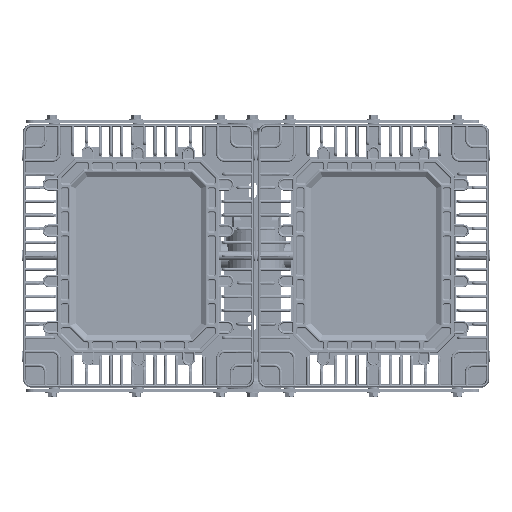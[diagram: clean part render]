
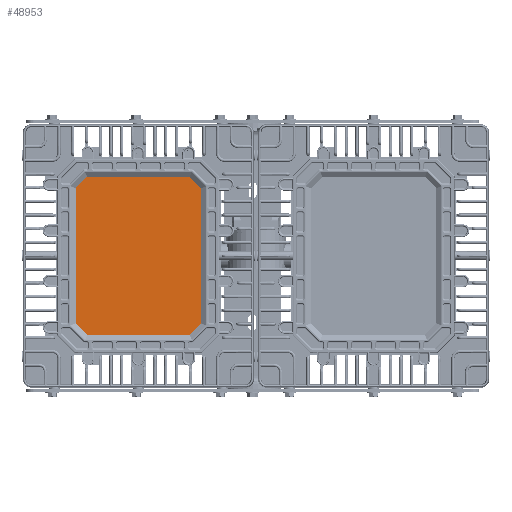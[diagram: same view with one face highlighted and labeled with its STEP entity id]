
A CAD part, top view. The second image highlights one B-rep face of the part: STEP entity #48953.
In plain terms, the highlighted planar face has unit normal (-0.001, 0, 1) as drawn and (0, 0, -1) by its records, which use the part's own axes.
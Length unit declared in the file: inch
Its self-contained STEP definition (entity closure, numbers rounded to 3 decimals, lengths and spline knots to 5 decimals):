
#320 = AXIS2_PLACEMENT_3D ( 'NONE', #23436, #88248, #32732 ) ;
#401 = EDGE_CURVE ( 'NONE', #81745, #22912, #7213, .T. ) ;
#884 = ORIENTED_EDGE ( 'NONE', *, *, #39844, .T. ) ;
#3611 = CARTESIAN_POINT ( 'NONE',  ( 4.705, -3.05299, -0.55 ) ) ;
#5630 = EDGE_LOOP ( 'NONE', ( #67241, #106431, #20739, #49895, #884, #81576, #9745, #30187 ) ) ;
#7213 = LINE ( 'NONE', #19609, #34766 ) ;
#9499 = DIRECTION ( 'NONE',  ( 0.707, 0.707, 0. ) ) ;
#9745 = ORIENTED_EDGE ( 'NONE', *, *, #50843, .T. ) ;
#10189 = CARTESIAN_POINT ( 'NONE',  ( 4.705, 3.05299, -0.55 ) ) ;
#11967 = CARTESIAN_POINT ( 'NONE',  ( 4.01924, 3.73875, -0.55 ) ) ;
#12436 = VECTOR ( 'NONE', #66322, 39.37008 ) ;
#13059 = LINE ( 'NONE', #49710, #111561 ) ;
#13746 = VECTOR ( 'NONE', #114989, 39.37008 ) ;
#13803 = CARTESIAN_POINT ( 'NONE',  ( -4.01924, -3.73875, -0.55 ) ) ;
#15268 = FACE_OUTER_BOUND ( 'NONE', #5630, .T. ) ;
#19389 = DIRECTION ( 'NONE',  ( 0., 1., 0. ) ) ;
#19609 = CARTESIAN_POINT ( 'NONE',  ( -4.705, 3.05299, -0.55 ) ) ;
#20739 = ORIENTED_EDGE ( 'NONE', *, *, #116468, .T. ) ;
#21400 = DIRECTION ( 'NONE',  ( 0., -1., 0. ) ) ;
#22912 = VERTEX_POINT ( 'NONE', #25779 ) ;
#23436 = CARTESIAN_POINT ( 'NONE',  ( 0., 7.75799, -0.55 ) ) ;
#25779 = CARTESIAN_POINT ( 'NONE',  ( -4.01924, 3.73875, -0.55 ) ) ;
#26769 = VERTEX_POINT ( 'NONE', #115393 ) ;
#28858 = EDGE_CURVE ( 'NONE', #108863, #81745, #108540, .T. ) ;
#30187 = ORIENTED_EDGE ( 'NONE', *, *, #28858, .T. ) ;
#32732 = DIRECTION ( 'NONE',  ( -1., 0., 0. ) ) ;
#34766 = VECTOR ( 'NONE', #9499, 39.37008 ) ;
#38341 = VERTEX_POINT ( 'NONE', #10189 ) ;
#38390 = DIRECTION ( 'NONE',  ( -0.707, -0.707, 0. ) ) ;
#38429 = EDGE_CURVE ( 'NONE', #22912, #26769, #87662, .T. ) ;
#39844 = EDGE_CURVE ( 'NONE', #107355, #102759, #94657, .T. ) ;
#45316 = VECTOR ( 'NONE', #38390, 39.37008 ) ;
#46759 = DIRECTION ( 'NONE',  ( -0.707, 0.707, 0. ) ) ;
#48953 = ADVANCED_FACE ( 'NONE', ( #15268 ), #78507, .T. ) ;
#49710 = CARTESIAN_POINT ( 'NONE',  ( 4.705, 3.05299, -0.55 ) ) ;
#49895 = ORIENTED_EDGE ( 'NONE', *, *, #75874, .T. ) ;
#50843 = EDGE_CURVE ( 'NONE', #55838, #108863, #67174, .T. ) ;
#55838 = VERTEX_POINT ( 'NONE', #13803 ) ;
#56229 = CARTESIAN_POINT ( 'NONE',  ( 4.705, -3.05299, -0.55 ) ) ;
#57030 = CARTESIAN_POINT ( 'NONE',  ( 4.01924, -3.73875, -0.55 ) ) ;
#65570 = CARTESIAN_POINT ( 'NONE',  ( -4.705, -3.05299, -0.55 ) ) ;
#66322 = DIRECTION ( 'NONE',  ( -1., 0., 0. ) ) ;
#67174 = LINE ( 'NONE', #83620, #113509 ) ;
#67241 = ORIENTED_EDGE ( 'NONE', *, *, #401, .T. ) ;
#72354 = CARTESIAN_POINT ( 'NONE',  ( 4.01924, -3.73875, -0.55 ) ) ;
#75874 = EDGE_CURVE ( 'NONE', #38341, #107355, #13059, .T. ) ;
#76756 = DIRECTION ( 'NONE',  ( 0.707, -0.707, 0. ) ) ;
#78507 = PLANE ( 'NONE',  #320 ) ;
#81576 = ORIENTED_EDGE ( 'NONE', *, *, #105489, .T. ) ;
#81745 = VERTEX_POINT ( 'NONE', #110916 ) ;
#83620 = CARTESIAN_POINT ( 'NONE',  ( -4.01924, -3.73875, -0.55 ) ) ;
#83869 = VECTOR ( 'NONE', #19389, 39.37008 ) ;
#87662 = LINE ( 'NONE', #105735, #13746 ) ;
#88248 = DIRECTION ( 'NONE',  ( 0., 0., -1. ) ) ;
#94657 = LINE ( 'NONE', #56229, #45316 ) ;
#102759 = VERTEX_POINT ( 'NONE', #72354 ) ;
#105489 = EDGE_CURVE ( 'NONE', #102759, #55838, #110958, .T. ) ;
#105735 = CARTESIAN_POINT ( 'NONE',  ( -4.01924, 3.73875, -0.55 ) ) ;
#106431 = ORIENTED_EDGE ( 'NONE', *, *, #38429, .T. ) ;
#107355 = VERTEX_POINT ( 'NONE', #3611 ) ;
#108108 = LINE ( 'NONE', #11967, #119666 ) ;
#108540 = LINE ( 'NONE', #111716, #83869 ) ;
#108863 = VERTEX_POINT ( 'NONE', #65570 ) ;
#110916 = CARTESIAN_POINT ( 'NONE',  ( -4.705, 3.05299, -0.55 ) ) ;
#110958 = LINE ( 'NONE', #57030, #12436 ) ;
#111561 = VECTOR ( 'NONE', #21400, 39.37008 ) ;
#111716 = CARTESIAN_POINT ( 'NONE',  ( -4.705, -3.05299, -0.55 ) ) ;
#113509 = VECTOR ( 'NONE', #46759, 39.37008 ) ;
#114989 = DIRECTION ( 'NONE',  ( 1., 0., 0. ) ) ;
#115393 = CARTESIAN_POINT ( 'NONE',  ( 4.01924, 3.73875, -0.55 ) ) ;
#116468 = EDGE_CURVE ( 'NONE', #26769, #38341, #108108, .T. ) ;
#119666 = VECTOR ( 'NONE', #76756, 39.37008 ) ;
